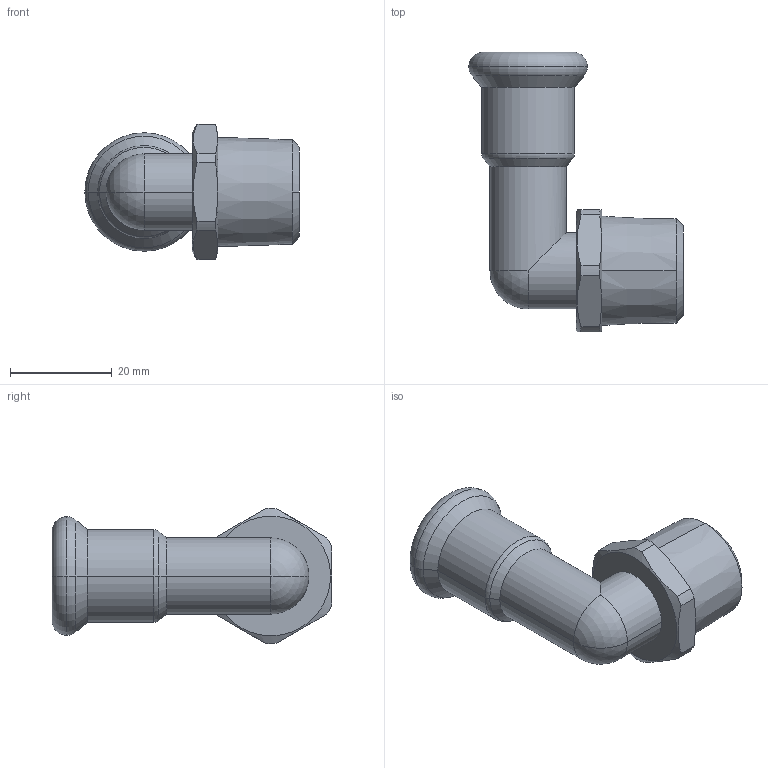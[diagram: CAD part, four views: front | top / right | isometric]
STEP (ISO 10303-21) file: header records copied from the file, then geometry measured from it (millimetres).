
FILE_DESCRIPTION(('OneSpaceDesigner STEP Export'),'2;1');
FILE_NAME('R2728 15xR1-2.stp','2010-06-10T13:16:29',(''),(''),'OneSpace Designer STEP processor for AP214 (Solid Model)','OneSpace Modeling 15.00A 14-Mar-2007 (C) CoCreate Software GmbH','');
FILE_SCHEMA(('AUTOMOTIVE_DESIGN { 1 0 10303 214 1 1 1 1 }'));
Length unit declared in the file: millimetre
Products named in the file (2): R2728_15xR1-2
Assembly tree (1 placements, depth 2):
  R2728_15xR1-2
    R2728_15xR1-2
Bounding box: 42.15 x 55 x 26.59 mm (x, y, z)
Volume: 8647.2 mm3; surface area: 8819.5 mm2
Topology: 1 solids, 1 shells, 134 faces, 351 edges, 227 vertices
Faces by surface type: plane 68, cylinder 42, cone 12, torus 6, sphere 6
Entity records: 4569 total; most frequent: CARTESIAN_POINT 1486, ORIENTED_EDGE 694, DIRECTION 546, EDGE_CURVE 347, VERTEX_POINT 227, VECTOR 190, LINE 190, AXIS2_PLACEMENT_3D 178
